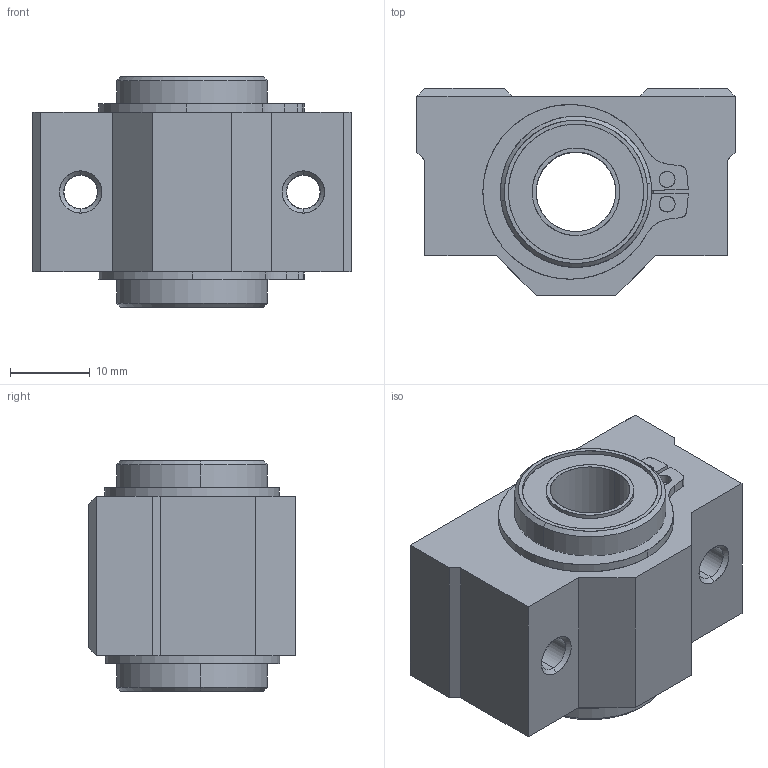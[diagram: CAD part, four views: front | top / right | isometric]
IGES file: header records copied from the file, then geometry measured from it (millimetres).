
Start section: SolidWorks IGES file using analytic representation for surfaces
Global section: file name: D:\SOLIDWORKS PROEKTI\freelance cnc cat\VTORA SERIJA\SC-VUU\SC10VUU.IGS; native system: SolidWorks 2016; preprocessor: SolidWorks 2016; author: User; date: 170805.194732; units: millimetre
Bounding box: 40 x 26 x 29 mm (x, y, z)
Surface area: 9448.8 mm2 (no closed solid volume)
Topology: 0 solids, 0 shells, 294 faces, 6762 edges, 8286 vertices
Faces by surface type: bspline 209, revolution 85
